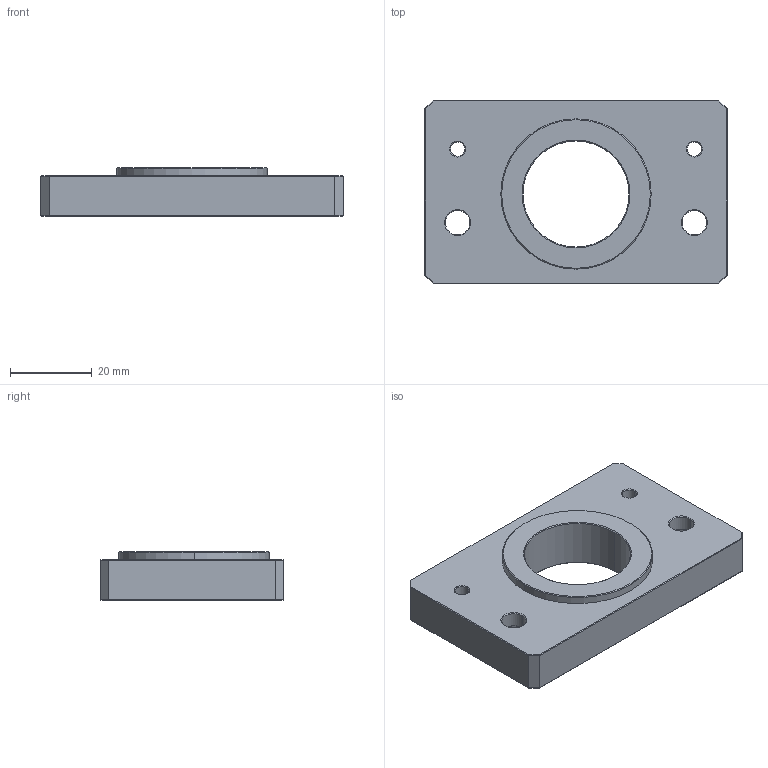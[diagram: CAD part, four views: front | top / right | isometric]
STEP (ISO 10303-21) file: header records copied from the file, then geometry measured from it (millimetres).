
FILE_DESCRIPTION((''),'2;1');
FILE_NAME('46MI','2017-05-23T',('Owner'),(''),'PRO/ENGINEER BY PARAMETRIC TECHNOLOGY CORPORATION, 2009440','PRO/ENGINEER BY PARAMETRIC TECHNOLOGY CORPORATION, 2009440','');
FILE_SCHEMA(('CONFIG_CONTROL_DESIGN'));
Length unit declared in the file: millimetre
Products named in the file (1): 46MI
Bounding box: 74 x 45 x 12 mm (x, y, z)
Volume: 27285.6 mm3; surface area: 9694.3 mm2
Topology: 1 solids, 1 shells, 81 faces, 176 edges, 102 vertices
Faces by surface type: plane 31, cone 30, cylinder 20
Entity records: 2230 total; most frequent: DIRECTION 408, CARTESIAN_POINT 359, ORIENTED_EDGE 352, EDGE_CURVE 176, AXIS2_PLACEMENT_3D 151, VECTOR 106, LINE 106, VERTEX_POINT 102
